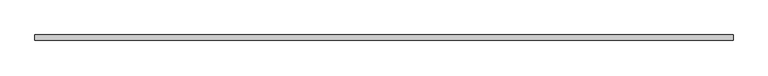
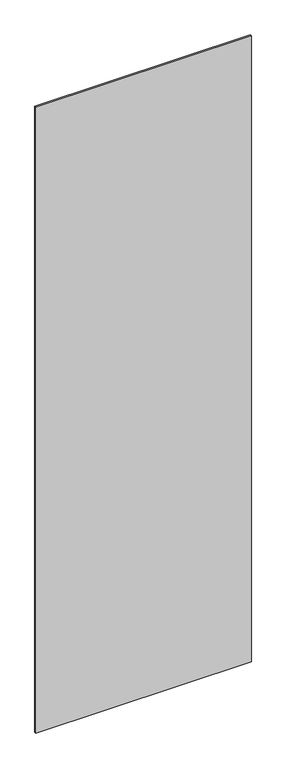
"""IFC4 building model written with IfcOpenShell, lengths in millimetres: plate geometry, システム パネル : 標準."""

from ifc_helpers import new_model, si_unit, origin, origin_with_axes, place, context, project, spatial, polyline, outline, extrude, source, transform, mapped, element, save


def plate_b8bd1475(model_context):
    return source(origin(), model_context, "Body", "SweptSolid", [
        extrude(outline(polyline([(628.942886, -5.0), (-628.942886, -5.0), (-628.942886, 5.0), (628.942886, 5.0), (628.942886, -5.0)])), origin_with_axes(), (0.0, 0.0, 1.0), 3860.0),
    ])


if __name__ == "__main__":
    model = new_model("IFC4")
    model_context = context("Model", 3, world=origin())
    ifc_project = project(units=[si_unit("LENGTHUNIT", "METRE", prefix="MILLI")], contexts=[model_context])
    site = spatial("IfcSite", under=ifc_project)
    building = spatial("IfcBuilding", under=site)
    placement = place(None, origin())
    plate_shape = plate_b8bd1475(model_context)
    element("IfcPlate", 1, ObjectType="システム パネル : 標準", at=placement, inside=building, context=model_context, shape_type="MappedRepresentation", body=[
        mapped(plate_shape, transform((0.0, 0.0, 0.0), x_axis=(1.0, 0.0, 0.0), y_axis=(0.0, 1.0, 0.0), z_axis=(0.0, 0.0, 1.0))),
    ])
    save(model, "model.ifc")
